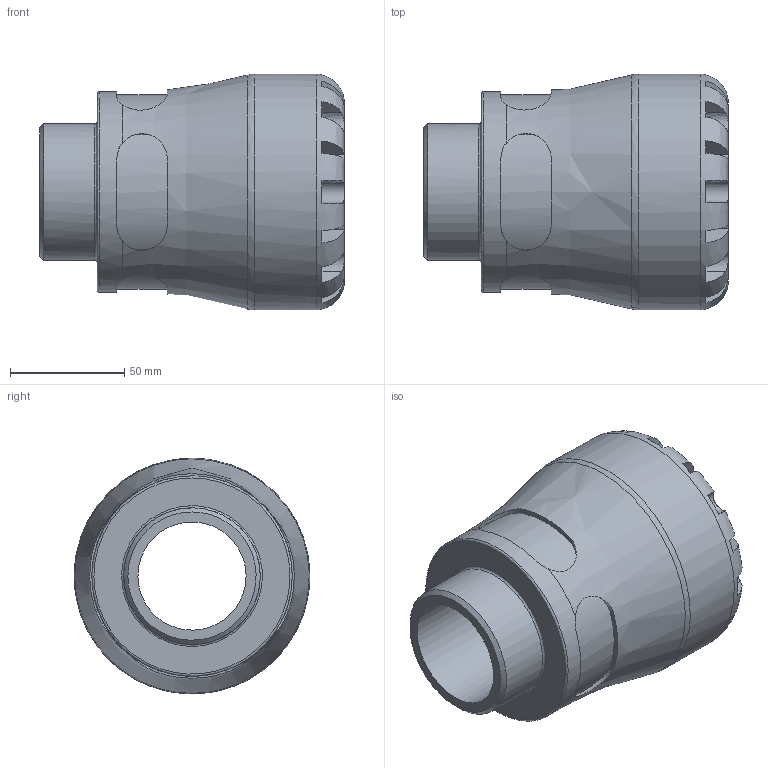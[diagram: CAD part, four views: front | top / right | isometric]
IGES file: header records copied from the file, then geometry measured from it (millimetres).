
Global section: file name: 150200063020; native system: Autodesk Inventor 2019; preprocessor: unknown; author: KIM; date: 20231017.191502; units: millimetre
Bounding box: 133 x 103 x 102.95 mm (x, y, z)
Volume: 465056.6 mm3; surface area: 74332.9 mm2
Topology: 1 solids, 1 shells, 108 faces, 297 edges, 193 vertices
Faces by surface type: bspline 108
